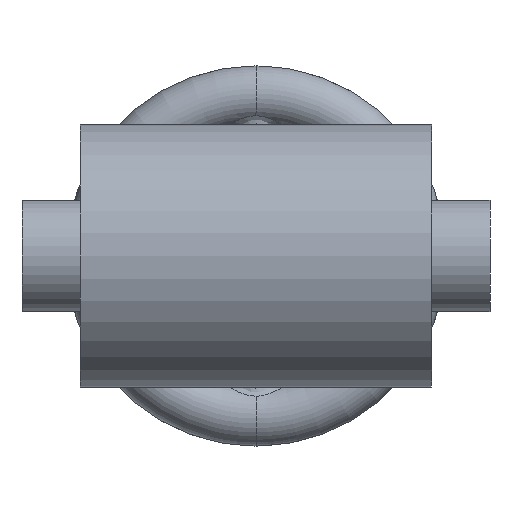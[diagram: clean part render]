
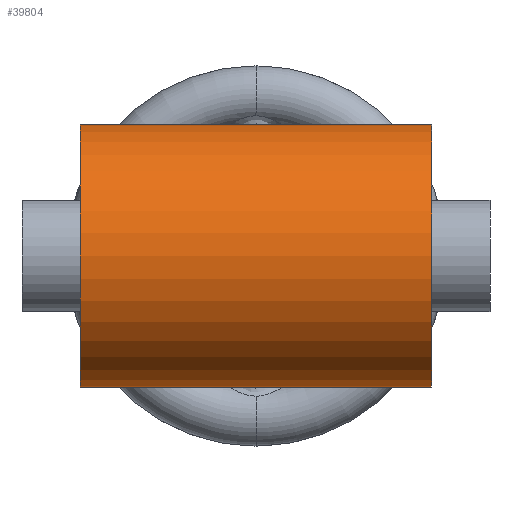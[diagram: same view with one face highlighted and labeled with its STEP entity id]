
A CAD part, front view. The second image highlights one B-rep face of the part: STEP entity #39804.
In plain terms, the highlighted cylindrical face has radius 57.15 mm (diameter 114.3 mm), a partial arc.
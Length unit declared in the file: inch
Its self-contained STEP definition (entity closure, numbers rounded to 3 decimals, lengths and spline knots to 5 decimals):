
#628 = CYLINDRICAL_SURFACE ( 'NONE', #4207, 2.25 ) ;
#1306 = ORIENTED_EDGE ( 'NONE', *, *, #9009, .F. ) ;
#1501 = DIRECTION ( 'NONE',  ( 0., 0., -1. ) ) ;
#4207 = AXIS2_PLACEMENT_3D ( 'NONE', #61577, #33975, #1501 ) ;
#5059 = ORIENTED_EDGE ( 'NONE', *, *, #6521, .T. ) ;
#6521 = EDGE_CURVE ( 'NONE', #47413, #76768, #78437, .T. ) ;
#8575 = VERTEX_POINT ( 'NONE', #61088 ) ;
#9009 = EDGE_CURVE ( 'NONE', #47413, #24017, #86194, .T. ) ;
#14239 = DIRECTION ( 'NONE',  ( 1., 0., 0. ) ) ;
#18327 = ORIENTED_EDGE ( 'NONE', *, *, #56117, .F. ) ;
#18758 = DIRECTION ( 'NONE',  ( 0., 0., 1. ) ) ;
#19601 = DIRECTION ( 'NONE',  ( -1., 0., 0. ) ) ;
#24017 = VERTEX_POINT ( 'NONE', #42338 ) ;
#26797 = DIRECTION ( 'NONE',  ( 1., 0., 0. ) ) ;
#27006 = CARTESIAN_POINT ( 'NONE',  ( -3., 0., 0. ) ) ;
#27229 = CARTESIAN_POINT ( 'NONE',  ( 3., 0., 0. ) ) ;
#31081 = DIRECTION ( 'NONE',  ( 1., 0., 0. ) ) ;
#31964 = CARTESIAN_POINT ( 'NONE',  ( 3.2192, 0., -2.25 ) ) ;
#33975 = DIRECTION ( 'NONE',  ( 1., 0., 0. ) ) ;
#38324 = AXIS2_PLACEMENT_3D ( 'NONE', #27229, #26797, #46973 ) ;
#39804 = ADVANCED_FACE ( 'NONE', ( #73884 ), #628, .T. ) ;
#40123 = CARTESIAN_POINT ( 'NONE',  ( 3.2192, 0., 2.25 ) ) ;
#42112 = ORIENTED_EDGE ( 'NONE', *, *, #54450, .F. ) ;
#42338 = CARTESIAN_POINT ( 'NONE',  ( -3., 0., 2.25 ) ) ;
#42500 = CIRCLE ( 'NONE', #38324, 2.25 ) ;
#44201 = VECTOR ( 'NONE', #31081, 39.37008 ) ;
#46973 = DIRECTION ( 'NONE',  ( 0., 0., -1. ) ) ;
#47413 = VERTEX_POINT ( 'NONE', #61758 ) ;
#47546 = LINE ( 'NONE', #40123, #78949 ) ;
#49829 = AXIS2_PLACEMENT_3D ( 'NONE', #27006, #19601, #18758 ) ;
#54450 = EDGE_CURVE ( 'NONE', #8575, #76768, #42500, .T. ) ;
#56117 = EDGE_CURVE ( 'NONE', #24017, #8575, #47546, .T. ) ;
#61088 = CARTESIAN_POINT ( 'NONE',  ( 3., 0., 2.25 ) ) ;
#61577 = CARTESIAN_POINT ( 'NONE',  ( 3.2192, 0., 0. ) ) ;
#61758 = CARTESIAN_POINT ( 'NONE',  ( -3., 0., -2.25 ) ) ;
#73098 = EDGE_LOOP ( 'NONE', ( #18327, #1306, #5059, #42112 ) ) ;
#73884 = FACE_OUTER_BOUND ( 'NONE', #73098, .T. ) ;
#76768 = VERTEX_POINT ( 'NONE', #82700 ) ;
#78437 = LINE ( 'NONE', #31964, #44201 ) ;
#78949 = VECTOR ( 'NONE', #14239, 39.37008 ) ;
#82700 = CARTESIAN_POINT ( 'NONE',  ( 3., 0., -2.25 ) ) ;
#86194 = CIRCLE ( 'NONE', #49829, 2.25 ) ;
